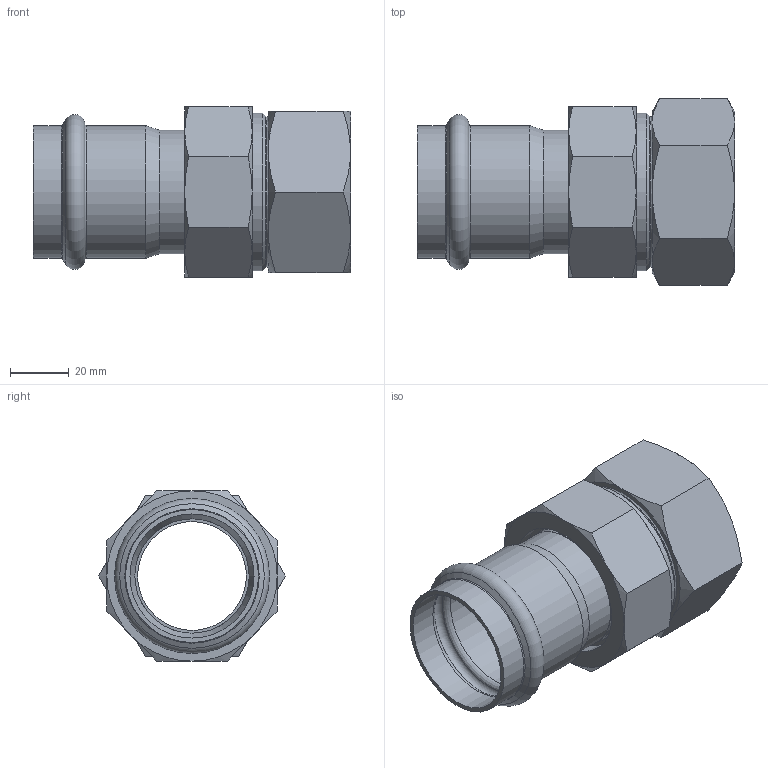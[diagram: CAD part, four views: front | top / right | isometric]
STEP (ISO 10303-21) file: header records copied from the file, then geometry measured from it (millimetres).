
FILE_DESCRIPTION((''),'2;1');
FILE_NAME('G:\Nirosan-Schmiedefeld\Technics\CAD\Bauteile VA\042\69330g42112(2).stp','2011-05-24T09:44:26',('herberg'),(''),'Autodesk Inventor 2009','Autodesk Inventor 2009','');
FILE_SCHEMA(('AUTOMOTIVE_DESIGN { 1 0 10303 214 1 1 1 1 }'));
Length unit declared in the file: millimetre
Products named in the file (7): 69330g42112(2); 69359mms42134(0); HM_6924342(2); R42134(1); FD_5037_EPDM(0); MS_AM42134(1); 69370G134112(1)
Assembly tree (6 placements, depth 3):
  69330g42112(2)
    69359mms42134(0)
      HM_6924342(2)
      R42134(1)
      FD_5037_EPDM(0)
      MS_AM42134(1)
    69370G134112(1)
Bounding box: 108 x 63.51 x 58 mm (x, y, z)
Volume: 79494.5 mm3; surface area: 48659.2 mm2
Topology: 5 solids, 5 shells, 90 faces, 183 edges, 107 vertices
Faces by surface type: cone 36, plane 26, cylinder 13, bspline 13, torus 2
Full cylindrical faces by diameter (mm): 37 x1, 39 x2, 42 x2, 42.3 x2, 45.3 x2, 49 x1, 50 x1, 51 x1, 53.746 x1
Entity records: 2613 total; most frequent: CARTESIAN_POINT 827, DIRECTION 344, ORIENTED_EDGE 290, AXIS2_PLACEMENT_3D 165, EDGE_CURVE 145, EDGE_LOOP 138, VERTEX_POINT 103, FACE_OUTER_BOUND 90
